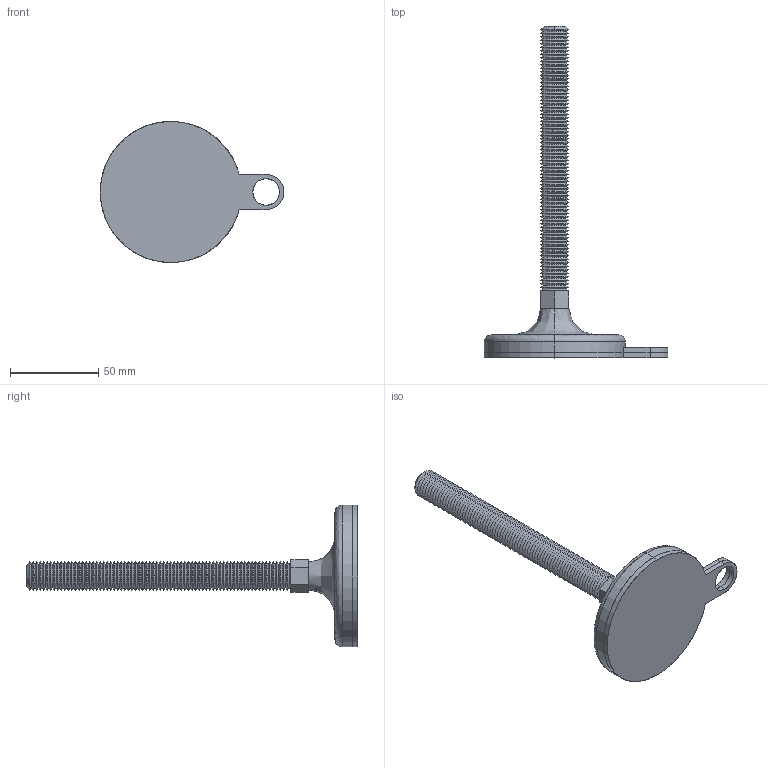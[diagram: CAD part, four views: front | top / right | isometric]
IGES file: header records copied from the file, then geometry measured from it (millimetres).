
Start section: SolidWorks IGES file using analytic representation for surfaces
Global section: file name: C:\Users\liam_\OneDrive\Documents\WORK\Work for WixRoyd\Job Files\J-00026 - Matt Davis CAD - 20191124\04. CAD Drawings\Wixroyd20191124\34704_v2\34704_v2_20191128_IGES\34704.W1602.igs; native system: SolidWorks 2017; preprocessor: SolidWorks 2017; author: liam_; date: 191128.202510; units: millimetre
Bounding box: 104 x 188 x 80 mm (x, y, z)
Surface area: 38973.5 mm2 (no closed solid volume)
Topology: 0 solids, 0 shells, 341 faces, 1996 edges, 1996 vertices
Faces by surface type: revolution 309, bspline 32
